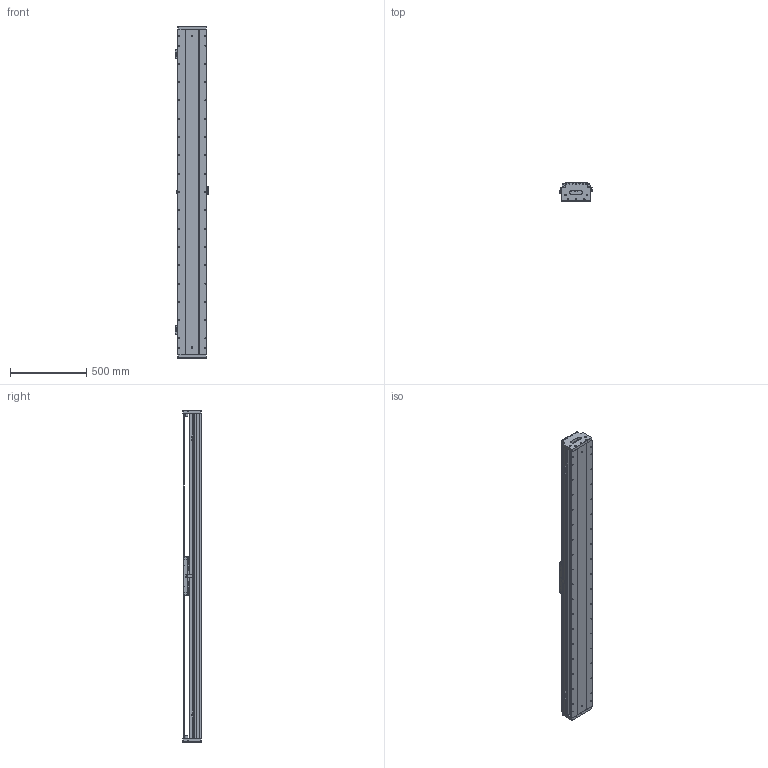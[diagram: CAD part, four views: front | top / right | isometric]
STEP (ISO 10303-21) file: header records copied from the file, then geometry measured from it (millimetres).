
FILE_DESCRIPTION (( 'STEP AP203' ), '1' );
FILE_NAME ('DKW188-C3-W090(T1800-L005-0.2).STEP', '2021-09-14T05:45:37', ( '微软用户' ), ( '微软中国' ), 'SwSTEP 2.0', 'SolidWorks 2018', '' );
FILE_SCHEMA (( 'CONFIG_CONTROL_DESIGN' ));
Length unit declared in the file: millimetre
Products named in the file (25): 嫖萇羲壽蚾饜极A; 11899-0001-006-00 嶺輸菜輸; SSR25XW1UUC1; DKW-SG-GYP-H-00 嫖萇覜茼え; 砎蝶猾沭; CKMA01-W090-TRLxxx; DKW168-RU-DTJ-00 RU2黍杅芛盓殤; 11899-0001-002-00 詩湍裔啣; 11500-0001-010-00 賑怢啣; RUS嫖掑喜; DKW188 单轴模组-拉钢带组件; CKM03-W090-C1C2-TP-0.2 珨极萇儂; Ru2; DKW168-HYB-00 賑輸揤啣; 11899-0001-003-00 傷啣; RUS嫖掑郪璃; pm-y65; DKW168-HXJ-00 遣喳砎蝶; DKW188-C3-W090(T1800-L005-0.2); 10980-0001-003-00 嫖萇羲壽嘐隅釱; 11899-0001-004-00 詩湍嶺輸; 11899-0001-001-00 菁釱; 嫖萇羲壽蚾饜极; 11899-0001-005-00 詩湍揤輸; SSR25-DG
Assembly tree (40 placements, depth 3):
  DKW188-C3-W090(T1800-L005-0.2)
    11899-0001-001-00 菁釱
    SSR25-DG  x2
    SSR25XW1UUC1  x4
    CKMA01-W090-TRLxxx
    11500-0001-010-00 賑怢啣
    CKM03-W090-C1C2-TP-0.2 珨极萇儂
    DKW188 单轴模组-拉钢带组件
      11899-0001-003-00 傷啣  x2
      DKW168-HXJ-00 遣喳砎蝶  x4
      11899-0001-004-00 詩湍嶺輸  x2
      11899-0001-005-00 詩湍揤輸  x2
      11899-0001-006-00 嶺輸菜輸  x2
      砎蝶猾沭  x2
      11899-0001-002-00 詩湍裔啣
    DKW168-HYB-00 賑輸揤啣  x2
    嫖萇羲壽蚾饜极
      pm-y65  x2
      10980-0001-003-00 嫖萇羲壽嘐隅釱
    嫖萇羲壽蚾饜极A
      pm-y65
      10980-0001-003-00 嫖萇羲壽嘐隅釱
    DKW-SG-GYP-H-00 嫖萇覜茼え
    DKW168-RU-DTJ-00 RU2黍杅芛盓殤
    RUS嫖掑郪璃
      RUS嫖掑喜
      Ru2
Bounding box: 222.1 x 120 x 2176 mm (x, y, z)
Volume: 17326026.5 mm3; surface area: 4485294.8 mm2
Topology: 39 solids, 88 shells, 4492 faces, 11673 edges, 7408 vertices
Faces by surface type: plane 2119, cylinder 1608, cone 490, bspline 275
Entity records: 118122 total; most frequent: CARTESIAN_POINT 40022, ORIENTED_EDGE 15499, DIRECTION 15104, EDGE_CURVE 7790, AXIS2_PLACEMENT_3D 5194, VERTEX_POINT 5097, LINE 4716, VECTOR 4716
